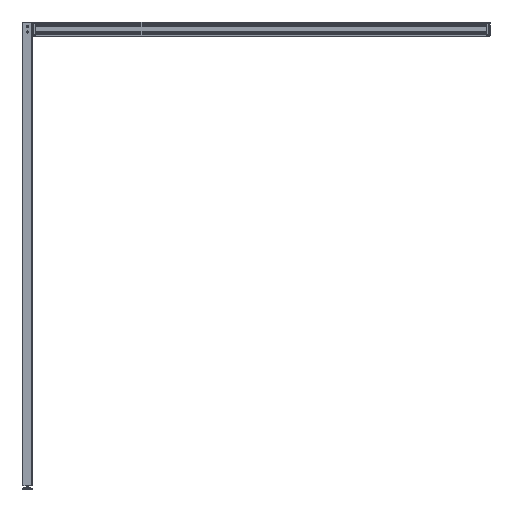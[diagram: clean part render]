
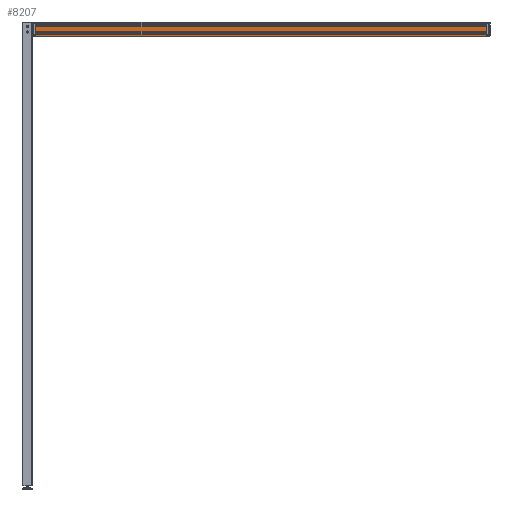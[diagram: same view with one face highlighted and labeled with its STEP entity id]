
A CAD part, left-side view. The second image highlights one B-rep face of the part: STEP entity #8207.
In plain terms, the highlighted planar face has unit normal (-1, 0, 0).
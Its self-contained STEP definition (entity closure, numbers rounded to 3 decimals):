
#77 = VECTOR ( 'NONE', #88082, 1000. ) ;
#7553 = FACE_OUTER_BOUND ( 'NONE', #111442, .T. ) ;
#8207 = ADVANCED_FACE ( 'NONE', ( #7553 ), #52860, .T. ) ;
#12878 = ORIENTED_EDGE ( 'NONE', *, *, #45826, .F. ) ;
#22635 = VERTEX_POINT ( 'NONE', #137818 ) ;
#29054 = DIRECTION ( 'NONE',  ( 0., -1., 0. ) ) ;
#29808 = CARTESIAN_POINT ( 'NONE',  ( 4410., -908.5, 455.646 ) ) ;
#34399 = CARTESIAN_POINT ( 'NONE',  ( 4410., -908.5, 455.646 ) ) ;
#39523 = DIRECTION ( 'NONE',  ( 0., 0., 1. ) ) ;
#40952 = CARTESIAN_POINT ( 'NONE',  ( 4410., -908.5, 451.784 ) ) ;
#44082 = LINE ( 'NONE', #89360, #71766 ) ;
#45826 = EDGE_CURVE ( 'NONE', #22635, #93409, #144572, .T. ) ;
#49581 = CARTESIAN_POINT ( 'NONE',  ( 4410., -3604.5, 371.646 ) ) ;
#52860 = PLANE ( 'NONE',  #89201 ) ;
#65588 = EDGE_CURVE ( 'NONE', #96634, #93409, #106953, .T. ) ;
#68909 = ORIENTED_EDGE ( 'NONE', *, *, #83171, .F. ) ;
#71766 = VECTOR ( 'NONE', #134634, 1000. ) ;
#80443 = ORIENTED_EDGE ( 'NONE', *, *, #65588, .T. ) ;
#83171 = EDGE_CURVE ( 'NONE', #124604, #22635, #144165, .T. ) ;
#88082 = DIRECTION ( 'NONE',  ( 0., 0., -1. ) ) ;
#89201 = AXIS2_PLACEMENT_3D ( 'NONE', #40952, #95969, #39523 ) ;
#89360 = CARTESIAN_POINT ( 'NONE',  ( 4410., -908.5, 451.784 ) ) ;
#93409 = VERTEX_POINT ( 'NONE', #49581 ) ;
#95857 = DIRECTION ( 'NONE',  ( 0., -1., 0. ) ) ;
#95969 = DIRECTION ( 'NONE',  ( -1., 0., 0. ) ) ;
#96634 = VERTEX_POINT ( 'NONE', #111633 ) ;
#101362 = EDGE_CURVE ( 'NONE', #124604, #96634, #44082, .T. ) ;
#101635 = VECTOR ( 'NONE', #95857, 1000. ) ;
#106953 = LINE ( 'NONE', #130701, #101635 ) ;
#111442 = EDGE_LOOP ( 'NONE', ( #12878, #68909, #137309, #80443 ) ) ;
#111633 = CARTESIAN_POINT ( 'NONE',  ( 4410., -908.5, 371.646 ) ) ;
#121475 = VECTOR ( 'NONE', #29054, 1000. ) ;
#121529 = CARTESIAN_POINT ( 'NONE',  ( 4410., -3604.5, 451.784 ) ) ;
#124604 = VERTEX_POINT ( 'NONE', #34399 ) ;
#130701 = CARTESIAN_POINT ( 'NONE',  ( 4410., -908.5, 371.646 ) ) ;
#134634 = DIRECTION ( 'NONE',  ( 0., 0., -1. ) ) ;
#137309 = ORIENTED_EDGE ( 'NONE', *, *, #101362, .T. ) ;
#137818 = CARTESIAN_POINT ( 'NONE',  ( 4410., -3604.5, 455.646 ) ) ;
#144165 = LINE ( 'NONE', #29808, #121475 ) ;
#144572 = LINE ( 'NONE', #121529, #77 ) ;
